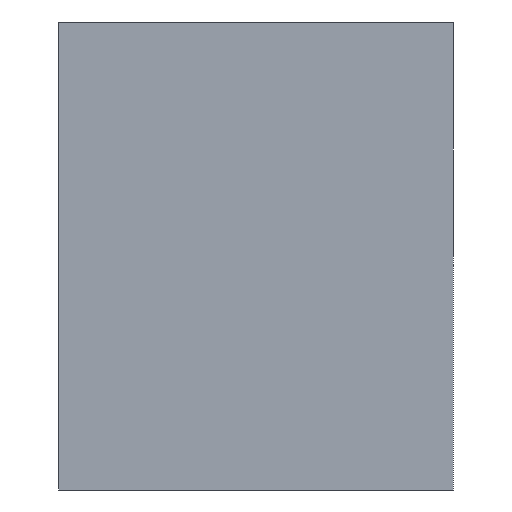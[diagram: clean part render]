
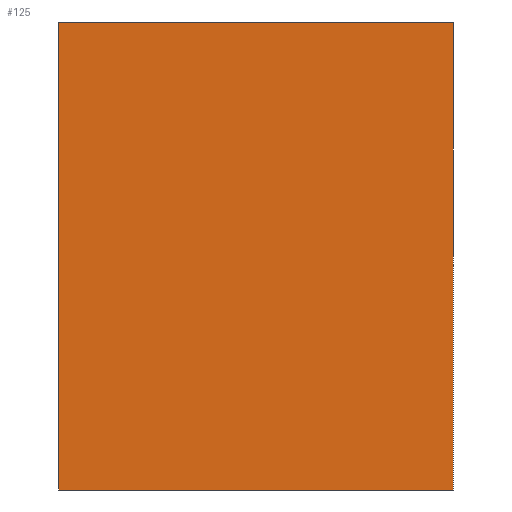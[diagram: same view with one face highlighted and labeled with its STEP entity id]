
A CAD part, left-side view. The second image highlights one B-rep face of the part: STEP entity #125.
In plain terms, the highlighted planar face has unit normal (-1, 0, 0).
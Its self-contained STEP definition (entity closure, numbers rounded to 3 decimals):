
#2 = CARTESIAN_POINT ( 'NONE',  ( -1.6, 1.35, 0.8 ) ) ;
#3 = EDGE_CURVE ( 'NONE', #573, #368, #123, .T. ) ;
#22 = CARTESIAN_POINT ( 'NONE',  ( -1.6, 0., 0.8 ) ) ;
#36 = CARTESIAN_POINT ( 'NONE',  ( -1.6, 1.35, 0.8 ) ) ;
#37 = ORIENTED_EDGE ( 'NONE', *, *, #300, .T. ) ;
#45 = AXIS2_PLACEMENT_3D ( 'NONE', #502, #715, #616 ) ;
#123 = LINE ( 'NONE', #671, #640 ) ;
#125 = ADVANCED_FACE ( 'NONE', ( #129 ), #613, .F. ) ;
#129 = FACE_OUTER_BOUND ( 'NONE', #427, .T. ) ;
#150 = DIRECTION ( 'NONE',  ( 0., -1., 0. ) ) ;
#202 = ORIENTED_EDGE ( 'NONE', *, *, #3, .F. ) ;
#206 = ORIENTED_EDGE ( 'NONE', *, *, #349, .T. ) ;
#237 = ORIENTED_EDGE ( 'NONE', *, *, #695, .F. ) ;
#241 = VERTEX_POINT ( 'NONE', #700 ) ;
#250 = DIRECTION ( 'NONE',  ( 0., 0., 1. ) ) ;
#286 = DIRECTION ( 'NONE',  ( 0., 0., 1. ) ) ;
#300 = EDGE_CURVE ( 'NONE', #353, #241, #586, .T. ) ;
#349 = EDGE_CURVE ( 'NONE', #573, #353, #696, .T. ) ;
#353 = VERTEX_POINT ( 'NONE', #537 ) ;
#368 = VERTEX_POINT ( 'NONE', #36 ) ;
#395 = VECTOR ( 'NONE', #643, 1000. ) ;
#419 = CARTESIAN_POINT ( 'NONE',  ( -1.6, 1.35, -0.8 ) ) ;
#427 = EDGE_LOOP ( 'NONE', ( #37, #237, #202, #206 ) ) ;
#435 = LINE ( 'NONE', #2, #603 ) ;
#502 = CARTESIAN_POINT ( 'NONE',  ( -1.6, 1.35, 0.8 ) ) ;
#537 = CARTESIAN_POINT ( 'NONE',  ( -1.6, 0., -0.8 ) ) ;
#573 = VERTEX_POINT ( 'NONE', #702 ) ;
#586 = LINE ( 'NONE', #22, #587 ) ;
#587 = VECTOR ( 'NONE', #250, 1000. ) ;
#603 = VECTOR ( 'NONE', #150, 1000. ) ;
#613 = PLANE ( 'NONE',  #45 ) ;
#616 = DIRECTION ( 'NONE',  ( 0., 0., -1. ) ) ;
#640 = VECTOR ( 'NONE', #286, 1000. ) ;
#643 = DIRECTION ( 'NONE',  ( 0., -1., 0. ) ) ;
#671 = CARTESIAN_POINT ( 'NONE',  ( -1.6, 1.35, 0.8 ) ) ;
#695 = EDGE_CURVE ( 'NONE', #368, #241, #435, .T. ) ;
#696 = LINE ( 'NONE', #419, #395 ) ;
#700 = CARTESIAN_POINT ( 'NONE',  ( -1.6, 0., 0.8 ) ) ;
#702 = CARTESIAN_POINT ( 'NONE',  ( -1.6, 1.35, -0.8 ) ) ;
#715 = DIRECTION ( 'NONE',  ( 1., 0., 0. ) ) ;
